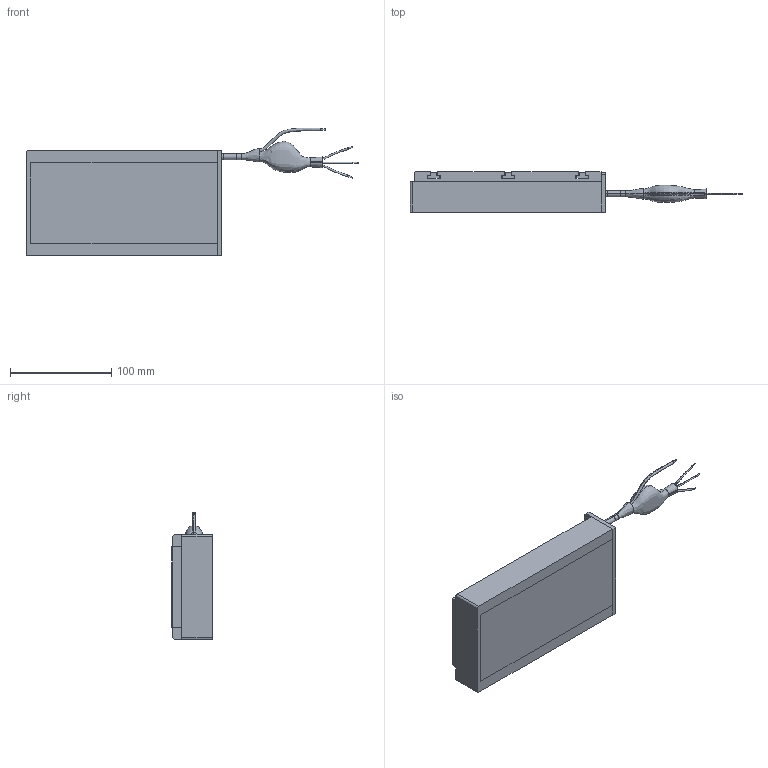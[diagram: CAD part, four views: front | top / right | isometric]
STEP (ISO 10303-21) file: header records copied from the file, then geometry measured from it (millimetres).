
FILE_DESCRIPTION (( 'STEP AP214' ), '1' );
FILE_NAME ('PIX200-040-080.STEP', '2016-05-10T03:23:17', ( '' ), ( '' ), 'SwSTEP 2.0', 'SolidWorks 2015', '' );
FILE_SCHEMA (( 'AUTOMOTIVE_DESIGN' ));
Length unit declared in the file: millimetre
Products named in the file (7): FERRITE CORE (FC2); CBL_MTR_PWR_SS_4C2C_SA (#3620-1); 001S200-040-080-003_CUSTOMER; 001S200-040-080-004; 001S200-040-080-0000-003_CUSTOMER; 001S200-040-0000-001_CUSTOMER_80; PIX200-040-080
Assembly tree (8 placements, depth 2):
  PIX200-040-080
    001S200-040-0000-001_CUSTOMER_80
    001S200-040-080-0000-003_CUSTOMER  x3
    001S200-040-080-004
    001S200-040-080-003_CUSTOMER
    CBL_MTR_PWR_SS_4C2C_SA (#3620-1)
    FERRITE CORE (FC2)
Bounding box: 328 x 39.9 x 126.34 mm (x, y, z)
Volume: 1207404.7 mm3; surface area: 137673.5 mm2
Topology: 8 solids, 8 shells, 200 faces, 491 edges, 315 vertices
Faces by surface type: plane 111, cylinder 44, cone 25, torus 10, bspline 10
Entity records: 7631 total; most frequent: CARTESIAN_POINT 3125, DIRECTION 775, ORIENTED_EDGE 740, EDGE_CURVE 370, AXIS2_PLACEMENT_3D 275, VERTEX_POINT 239, VECTOR 225, LINE 225
